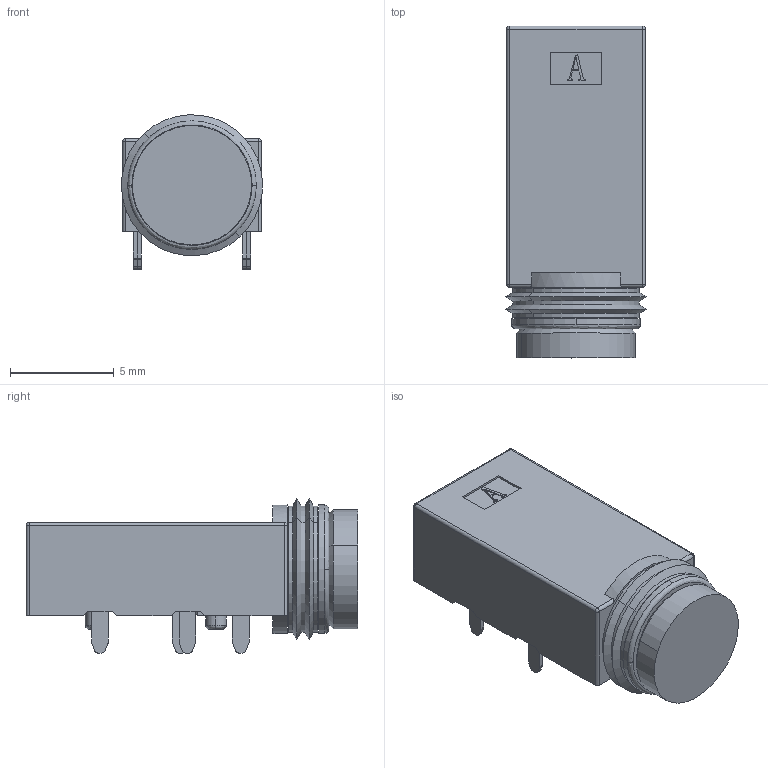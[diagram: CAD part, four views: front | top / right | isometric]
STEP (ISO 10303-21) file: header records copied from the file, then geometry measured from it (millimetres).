
FILE_DESCRIPTION (( 'STEP AP203' ), '1' );
FILE_NAME ('E.STEP', '2022-06-01T03:25:15', ( 'Windows 蚚誧' ), ( 'SysCeo.com' ), 'SwSTEP 2.0', 'SolidWorks 2015', '' );
FILE_SCHEMA (( 'CONFIG_CONTROL_DESIGN' ));
Length unit declared in the file: millimetre
Products named in the file (5): EEE; 4DPLUG3; E
Assembly tree (2 placements, depth 2):
  E
    EEE
    4DPLUG3
  EEE
  4DPLUG3
Bounding box: 6.79 x 16 x 7.45 mm (x, y, z)
Volume: 445.4 mm3; surface area: 868.4 mm2
Topology: 3 solids, 4 shells, 417 faces, 1122 edges, 722 vertices
Faces by surface type: plane 251, cylinder 108, cone 25, bspline 25, sphere 8
Entity records: 14156 total; most frequent: CARTESIAN_POINT 3340, ORIENTED_EDGE 2236, DIRECTION 2065, EDGE_CURVE 1118, LINE 763, VECTOR 763, VERTEX_POINT 722, AXIS2_PLACEMENT_3D 651
